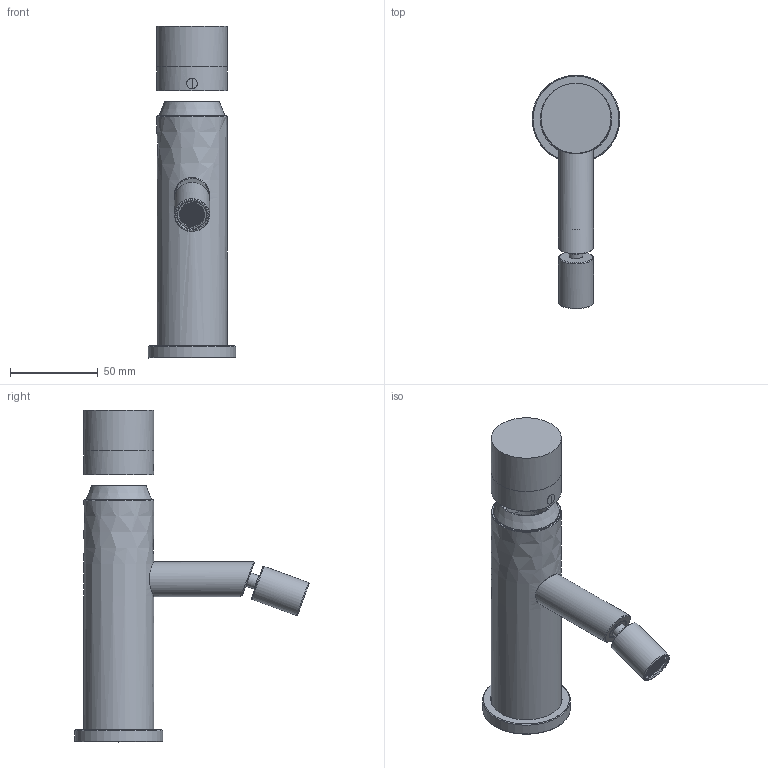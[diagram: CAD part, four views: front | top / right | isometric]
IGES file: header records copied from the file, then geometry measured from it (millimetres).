
Start section: Data from Parasolid IGES Translator 22.0.50, Copyright(c) 2006 Siemens P LM Software. All Rights Reserved.
Global section: file name: noorth-taps-H 18,6 D 13,5 W 5_5842.igs; native system: By Siemens PLM Incorporated; preprocessor: XPlus GENERIC/IGES 22.0.50; author: Noname; organization: Noname; date: 20260201.151732; units: metre
Bounding box: 50 x 133.43 x 189.31 mm (x, y, z)
Volume: 74773 mm3; surface area: 57130.7 mm2
Topology: 4 solids, 4 shells, 449 faces, 3886 edges, 3858 vertices
Faces by surface type: revolution 172, extrusion 168, bspline 75, cylinder 13, plane 11, cone 10
Full cylindrical faces by diameter (mm): 12.1 x1, 15.5 x1, 16.7 x1, 20 x2, 23.6 x1, 30 x1, 37 x1, 40 x2
